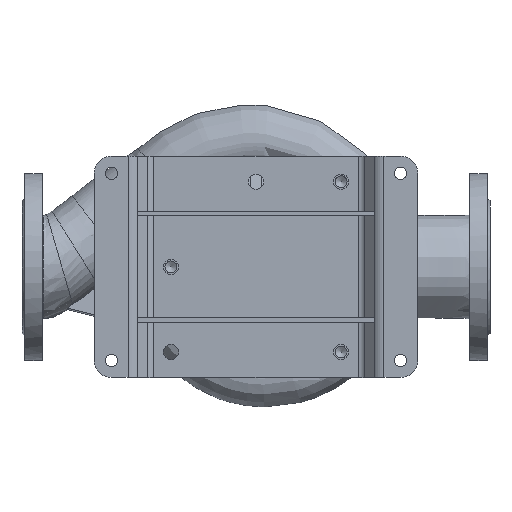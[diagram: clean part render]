
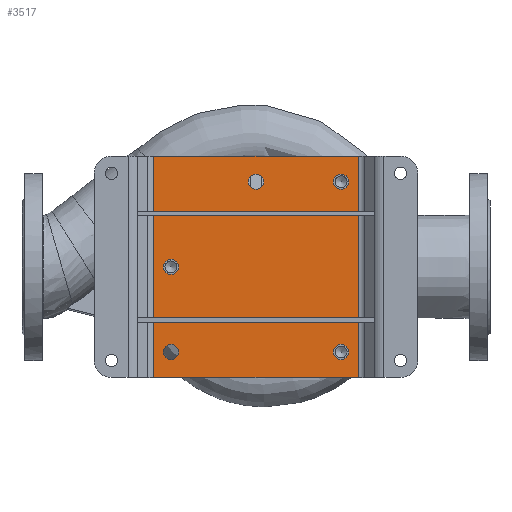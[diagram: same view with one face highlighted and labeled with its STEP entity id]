
A CAD part, top view. The second image highlights one B-rep face of the part: STEP entity #3517.
In plain terms, the highlighted planar face has unit normal (0, 0, 1) as drawn and (0, -1, 0) by its records, which use the part's own axes.
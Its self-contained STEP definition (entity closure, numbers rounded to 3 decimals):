
#231 = EDGE_LOOP ( 'NONE', ( #34597 ) ) ;
#619 = DIRECTION ( 'NONE',  ( 0., 0., -1. ) ) ;
#1639 = DIRECTION ( 'NONE',  ( 0., -1., 0. ) ) ;
#2645 = AXIS2_PLACEMENT_3D ( 'NONE', #58227, #42448, #63367 ) ;
#3092 = ORIENTED_EDGE ( 'NONE', *, *, #61545, .F. ) ;
#3440 = AXIS2_PLACEMENT_3D ( 'NONE', #39309, #39631, #55088 ) ;
#3517 = ADVANCED_FACE ( 'NONE', ( #8736, #29270, #40519, #48524, #22547, #43392 ), #34749, .T. ) ;
#4186 = EDGE_CURVE ( 'NONE', #40970, #40970, #31065, .T. ) ;
#5971 = ORIENTED_EDGE ( 'NONE', *, *, #31258, .F. ) ;
#8736 = FACE_BOUND ( 'NONE', #49631, .T. ) ;
#9034 = LINE ( 'NONE', #29568, #11918 ) ;
#9090 = VERTEX_POINT ( 'NONE', #51644 ) ;
#9512 = ORIENTED_EDGE ( 'NONE', *, *, #42373, .F. ) ;
#9690 = VERTEX_POINT ( 'NONE', #58994 ) ;
#10694 = AXIS2_PLACEMENT_3D ( 'NONE', #30497, #21249, #51697 ) ;
#11453 = EDGE_LOOP ( 'NONE', ( #9512 ) ) ;
#11863 = VERTEX_POINT ( 'NONE', #17571 ) ;
#11886 = CARTESIAN_POINT ( 'NONE',  ( -120., -5., -130. ) ) ;
#11918 = VECTOR ( 'NONE', #29905, 1000. ) ;
#12222 = VERTEX_POINT ( 'NONE', #33085 ) ;
#12275 = DIRECTION ( 'NONE',  ( 0., -1., 0. ) ) ;
#13150 = CARTESIAN_POINT ( 'NONE',  ( -100., -5., 91. ) ) ;
#13597 = EDGE_CURVE ( 'NONE', #9690, #11863, #39435, .T. ) ;
#13744 = CARTESIAN_POINT ( 'NONE',  ( 120., -5., 130. ) ) ;
#16485 = ORIENTED_EDGE ( 'NONE', *, *, #21644, .F. ) ;
#17348 = ORIENTED_EDGE ( 'NONE', *, *, #4186, .F. ) ;
#17571 = CARTESIAN_POINT ( 'NONE',  ( -120., -5., 130. ) ) ;
#18754 = VECTOR ( 'NONE', #34665, 1000. ) ;
#21249 = DIRECTION ( 'NONE',  ( 0., -1., 0. ) ) ;
#21644 = EDGE_CURVE ( 'NONE', #12222, #12222, #36237, .T. ) ;
#22506 = DIRECTION ( 'NONE',  ( -1., 0., 0. ) ) ;
#22547 = FACE_BOUND ( 'NONE', #231, .T. ) ;
#27131 = CIRCLE ( 'NONE', #10694, 9. ) ;
#27322 = ORIENTED_EDGE ( 'NONE', *, *, #13597, .F. ) ;
#29270 = FACE_BOUND ( 'NONE', #60840, .T. ) ;
#29568 = CARTESIAN_POINT ( 'NONE',  ( -120., -5., 130. ) ) ;
#29905 = DIRECTION ( 'NONE',  ( 1., 0., 0. ) ) ;
#29966 = EDGE_LOOP ( 'NONE', ( #47448 ) ) ;
#30497 = CARTESIAN_POINT ( 'NONE',  ( -100., -5., 100. ) ) ;
#30971 = VERTEX_POINT ( 'NONE', #46703 ) ;
#31065 = CIRCLE ( 'NONE', #2645, 9. ) ;
#31258 = EDGE_CURVE ( 'NONE', #11863, #51501, #9034, .T. ) ;
#33085 = CARTESIAN_POINT ( 'NONE',  ( 100., -5., -9. ) ) ;
#33846 = EDGE_LOOP ( 'NONE', ( #3092, #5971, #27322, #65177 ) ) ;
#34597 = ORIENTED_EDGE ( 'NONE', *, *, #41978, .F. ) ;
#34665 = DIRECTION ( 'NONE',  ( 0., 0., 1. ) ) ;
#34749 = PLANE ( 'NONE',  #48509 ) ;
#35908 = EDGE_CURVE ( 'NONE', #30971, #30971, #40544, .T. ) ;
#36237 = CIRCLE ( 'NONE', #51521, 9. ) ;
#39309 = CARTESIAN_POINT ( 'NONE',  ( 100., -5., 100. ) ) ;
#39435 = LINE ( 'NONE', #65823, #18754 ) ;
#39631 = DIRECTION ( 'NONE',  ( 0., -1., 0. ) ) ;
#39845 = DIRECTION ( 'NONE',  ( 0., 0., -1. ) ) ;
#40519 = FACE_BOUND ( 'NONE', #11453, .T. ) ;
#40544 = CIRCLE ( 'NONE', #3440, 9. ) ;
#40970 = VERTEX_POINT ( 'NONE', #45086 ) ;
#41976 = LINE ( 'NONE', #11886, #58419 ) ;
#41978 = EDGE_CURVE ( 'NONE', #43935, #43935, #27131, .T. ) ;
#42373 = EDGE_CURVE ( 'NONE', #43597, #43597, #43494, .T. ) ;
#42448 = DIRECTION ( 'NONE',  ( 0., -1., 0. ) ) ;
#43248 = CARTESIAN_POINT ( 'NONE',  ( 0., -5., -109. ) ) ;
#43392 = FACE_OUTER_BOUND ( 'NONE', #33846, .T. ) ;
#43494 = CIRCLE ( 'NONE', #48970, 9. ) ;
#43597 = VERTEX_POINT ( 'NONE', #43248 ) ;
#43935 = VERTEX_POINT ( 'NONE', #13150 ) ;
#45086 = CARTESIAN_POINT ( 'NONE',  ( -100., -5., -109. ) ) ;
#46186 = LINE ( 'NONE', #46528, #65259 ) ;
#46463 = CARTESIAN_POINT ( 'NONE',  ( 0., -5., -100. ) ) ;
#46528 = CARTESIAN_POINT ( 'NONE',  ( 120., -5., 130. ) ) ;
#46703 = CARTESIAN_POINT ( 'NONE',  ( 100., -5., 91. ) ) ;
#47448 = ORIENTED_EDGE ( 'NONE', *, *, #35908, .F. ) ;
#47499 = CARTESIAN_POINT ( 'NONE',  ( 100., -5., 0. ) ) ;
#48509 = AXIS2_PLACEMENT_3D ( 'NONE', #59157, #12275, #39845 ) ;
#48524 = FACE_BOUND ( 'NONE', #29966, .T. ) ;
#48970 = AXIS2_PLACEMENT_3D ( 'NONE', #46463, #61536, #61206 ) ;
#49631 = EDGE_LOOP ( 'NONE', ( #16485 ) ) ;
#51501 = VERTEX_POINT ( 'NONE', #13744 ) ;
#51521 = AXIS2_PLACEMENT_3D ( 'NONE', #47499, #1639, #619 ) ;
#51644 = CARTESIAN_POINT ( 'NONE',  ( 120., -5., -130. ) ) ;
#51697 = DIRECTION ( 'NONE',  ( 0., 0., -1. ) ) ;
#55088 = DIRECTION ( 'NONE',  ( 0., 0., -1. ) ) ;
#58227 = CARTESIAN_POINT ( 'NONE',  ( -100., -5., -100. ) ) ;
#58419 = VECTOR ( 'NONE', #22506, 1000. ) ;
#58994 = CARTESIAN_POINT ( 'NONE',  ( -120., -5., -130. ) ) ;
#59157 = CARTESIAN_POINT ( 'NONE',  ( 0., -5., 0. ) ) ;
#60840 = EDGE_LOOP ( 'NONE', ( #17348 ) ) ;
#61206 = DIRECTION ( 'NONE',  ( 0., 0., -1. ) ) ;
#61536 = DIRECTION ( 'NONE',  ( 0., -1., 0. ) ) ;
#61545 = EDGE_CURVE ( 'NONE', #51501, #9090, #46186, .T. ) ;
#63367 = DIRECTION ( 'NONE',  ( 0., 0., -1. ) ) ;
#65177 = ORIENTED_EDGE ( 'NONE', *, *, #66695, .F. ) ;
#65259 = VECTOR ( 'NONE', #67119, 1000. ) ;
#65823 = CARTESIAN_POINT ( 'NONE',  ( -120., -5., 130. ) ) ;
#66695 = EDGE_CURVE ( 'NONE', #9090, #9690, #41976, .T. ) ;
#67119 = DIRECTION ( 'NONE',  ( 0., 0., -1. ) ) ;
